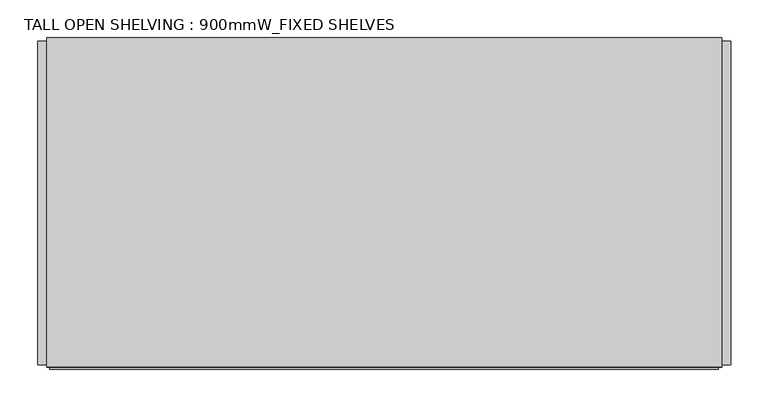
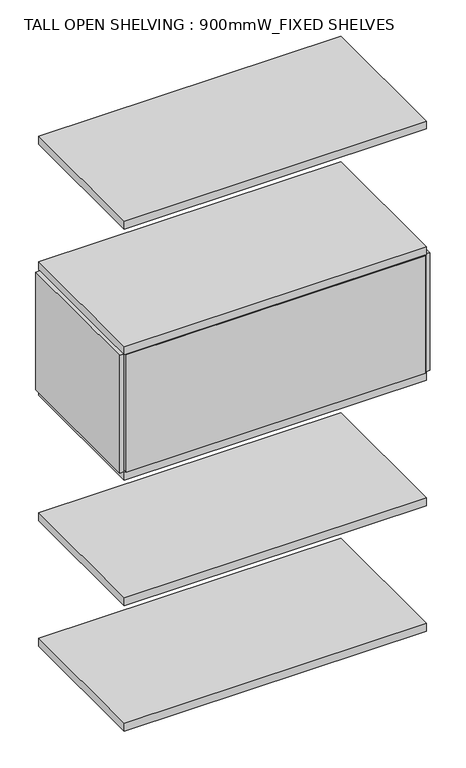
"""IFC4 building model written with IfcOpenShell, lengths in millimetres: furniture geometry, TALL OPEN SHELVING : 900mmW_FIXED SHELVES."""

import ifcopenshell
import ifcopenshell.guid

model = None  # the IFC model being written
_history = None  # IfcOwnerHistory: only IFC2X3 demands one
_inside = {}  # id of a spatial element -> (the spatial element, [elements in it])
_under = {}  # id of a project, library or spatial element -> (it, [spatial elements below it])
_declared = {}  # id of a project -> (the project, [libraries it declares])
_typed = {}  # id of a type object -> (the type object, [elements of that type])
_made_of = {}  # id of a material, layer set ... -> (it, [elements and type objects made of it])


def new_model(schema):
    """Start an empty IFC model of exactly this schema.

    Asked for "IFC4X3", IfcOpenShell would pick the latest addendum, in which some entities
    have other attributes; the version numbers below select the first issue.
    IFC2X3 requires an IfcOwnerHistory on every rooted entity: one is made here for all.
    """
    global model, _history
    if schema == "IFC4X3":
        model = ifcopenshell.file(schema_version=(4, 3, 0, 0))
    else:
        model = ifcopenshell.file(schema=schema)
    _inside.clear()
    _under.clear()
    _declared.clear()
    _typed.clear()
    _made_of.clear()
    _history = None
    if model.schema == "IFC2X3":
        org = make("IfcOrganization", Name="unknown")
        user = make(
            "IfcPersonAndOrganization",
            ThePerson=make("IfcPerson", FamilyName="unknown"),
            TheOrganization=org,
        )
        app = make(
            "IfcApplication",
            ApplicationDeveloper=org,
            Version="unknown",
            ApplicationFullName="unknown",
            ApplicationIdentifier="unknown",
        )
        _history = make(
            "IfcOwnerHistory",
            OwningUser=user,
            OwningApplication=app,
            ChangeAction="ADDED",
            CreationDate=0,
        )
    return model


def make(cls, **values):
    """One entity of the class cls with the attributes given. An attribute that is None is left unset."""
    return model.create_entity(
        cls, **{name: value for name, value in values.items() if value is not None}
    )


def rooted(cls, **values):
    """An entity with a GlobalId (a new one), such as an element, a storey or a relation."""
    return make(cls, GlobalId=ifcopenshell.guid.new(), OwnerHistory=_history, **values)


def si_unit(unit_type, name, prefix=None):
    """IfcSIUnit, for example si_unit("LENGTHUNIT", "METRE", prefix="MILLI")."""
    return make("IfcSIUnit", UnitType=unit_type, Prefix=prefix, Name=name)


def assignment(units):
    """IfcUnitAssignment: the units of a project."""
    return None if units is None else make("IfcUnitAssignment", Units=units)


def point(xyz):
    """IfcCartesianPoint."""
    return None if xyz is None else make("IfcCartesianPoint", Coordinates=xyz)


def direction(xyz):
    """IfcDirection."""
    return None if xyz is None else make("IfcDirection", DirectionRatios=xyz)


def frame(location, z_axis=None, x_axis=None):
    """IfcAxis2Placement3D, a coordinate frame: its origin and axes. An axis left out is left unset."""
    return make(
        "IfcAxis2Placement3D",
        Location=point(location),
        Axis=direction(z_axis),
        RefDirection=direction(x_axis),
    )


def origin():
    """The frame at (0, 0, 0) with its axes left unset."""
    return frame((0.0, 0.0, 0.0))


def place(relative_to, where):
    """IfcLocalPlacement: puts the frame where relative to a parent placement (None: the world)."""
    return make(
        "IfcLocalPlacement", PlacementRelTo=relative_to, RelativePlacement=where
    )


def context(
    kind, dimensions, precision=None, world=None, true_north=None, identifier=None
):
    """IfcGeometricRepresentationContext, for example the 3D "Model" context."""
    return make(
        "IfcGeometricRepresentationContext",
        ContextIdentifier=identifier,
        ContextType=kind,
        CoordinateSpaceDimension=dimensions,
        Precision=precision,
        WorldCoordinateSystem=world,
        TrueNorth=true_north,
    )


def project(units=None, contexts=None):
    """IfcProject with its units and contexts."""
    return rooted(
        "IfcProject",
        Name="project",
        RepresentationContexts=contexts,
        UnitsInContext=assignment(units),
    )


def spatial(cls, under=None, at=None, **own):
    """A site, building, storey or space (cls), placed at a placement, below another one or the project."""
    s = rooted(cls, ObjectPlacement=at, **own)
    if under is not None:
        _under.setdefault(under.id(), (under, []))[1].append(s)
    return s


def polyline(points):
    """IfcPolyline through the points."""
    return make("IfcPolyline", Points=[point(p) for p in points])


def outline(outer, holes=None, kind="AREA"):
    """IfcArbitraryClosedProfileDef: a profile drawn as a closed curve; with holes, ...WithVoids."""
    if holes is None:
        return make("IfcArbitraryClosedProfileDef", ProfileType=kind, OuterCurve=outer)
    return make(
        "IfcArbitraryProfileDefWithVoids",
        ProfileType=kind,
        OuterCurve=outer,
        InnerCurves=holes,
    )


def extrude(swept, where, along, depth):
    """IfcExtrudedAreaSolid: the profile swept, set in the frame where, extruded along a direction by depth."""
    return make(
        "IfcExtrudedAreaSolid",
        SweptArea=swept,
        Position=where,
        ExtrudedDirection=direction(along),
        Depth=depth,
    )


def shape(context_of_items, identifier, shape_type, items):
    """IfcShapeRepresentation: the items that make up one representation, for example the "Body"."""
    return make(
        "IfcShapeRepresentation",
        ContextOfItems=context_of_items,
        RepresentationIdentifier=identifier,
        RepresentationType=shape_type,
        Items=items,
    )


def source(mapping_origin, context_of_items, identifier, shape_type, items):
    """IfcRepresentationMap: a shape defined once, which mapped items show again and again."""
    return make(
        "IfcRepresentationMap",
        MappingOrigin=mapping_origin,
        MappedRepresentation=shape(context_of_items, identifier, shape_type, items),
    )


def transform(
    local_origin,
    x_axis=None,
    y_axis=None,
    z_axis=None,
    scale=None,
    scale2=None,
    scale3=None,
    uniform=True,
):
    """IfcCartesianTransformationOperator3D, or its non-uniform kind. x_axis, y_axis, z_axis: its Axis1, 2, 3."""
    if uniform:
        return make(
            "IfcCartesianTransformationOperator3D",
            Axis1=direction(x_axis),
            Axis2=direction(y_axis),
            LocalOrigin=point(local_origin),
            Scale=scale,
            Axis3=direction(z_axis),
        )
    return make(
        "IfcCartesianTransformationOperator3DnonUniform",
        Axis1=direction(x_axis),
        Axis2=direction(y_axis),
        LocalOrigin=point(local_origin),
        Scale=scale,
        Axis3=direction(z_axis),
        Scale2=scale2,
        Scale3=scale3,
    )


def mapped(mapping_source, mapping_target):
    """IfcMappedItem: shows the shape of a source again, moved by a transform."""
    return make(
        "IfcMappedItem", MappingSource=mapping_source, MappingTarget=mapping_target
    )


def made_of(thing, what):
    """Note that an element or type object is made of a material, layer set ...; save() writes the relation."""
    if what is not None:
        _made_of.setdefault(what.id(), (what, []))[1].append(thing)
    return thing


def element(
    cls,
    number,
    at=None,
    inside=None,
    cuts=None,
    type_object=None,
    material=None,
    context=None,
    identifier="Body",
    shape_type=None,
    held_by="IfcProductDefinitionShape",
    body=None,
    shapes=None,
    **own,
):
    """One element of the class cls, such as IfcWall. Its Tag is "e" and its number.

    at: its placement. inside: the storey or other place that contains it. cuts: it is an
    opening in that element (IfcRelVoidsElement). A single representation is given by context,
    identifier, shape_type and body (its items); several are given by shapes. held_by: the class
    of the entity that holds the representations. save() writes the other relations.
    """
    e = rooted(cls, Tag="e%d" % number, ObjectPlacement=at, **own)
    if body is not None:
        shapes = [shape(context, identifier, shape_type, body)]
    if shapes is not None:
        e.Representation = make(held_by, Representations=shapes)
    if inside is not None:
        _inside.setdefault(inside.id(), (inside, []))[1].append(e)
    if cuts is not None:
        rooted(
            "IfcRelVoidsElement", RelatingBuildingElement=cuts, RelatedOpeningElement=e
        )
    if type_object is not None:
        _typed.setdefault(type_object.id(), (type_object, []))[1].append(e)
    return made_of(e, material)


def aggregate(whole, parts):
    """IfcRelAggregates: a whole, such as a stair, and the parts it consists of."""
    return rooted("IfcRelAggregates", RelatingObject=whole, RelatedObjects=parts)


def save(model, path):
    """Write the relations noted so far, then the file.

    IfcRelAggregates (storeys below a building ...), IfcRelContainedInSpatialStructure (elements
    in a storey), IfcRelDefinesByType, IfcRelAssociatesMaterial and IfcRelDeclares: one each for
    every whole, place, type object, material and project.
    """
    for whole, parts in _under.values():
        aggregate(whole, parts)
    for where, things in _inside.values():
        rooted(
            "IfcRelContainedInSpatialStructure",
            RelatedElements=things,
            RelatingStructure=where,
        )
    for kind, things in _typed.values():
        rooted("IfcRelDefinesByType", RelatedObjects=things, RelatingType=kind)
    for what, things in _made_of.values():
        rooted("IfcRelAssociatesMaterial", RelatedObjects=things, RelatingMaterial=what)
    for by, libraries in _declared.values():
        rooted("IfcRelDeclares", RelatingContext=by, RelatedDefinitions=libraries)
    model.write(path)


def tall_open_shelving_900mmw_fixed_shelves_52626c5d(model_context):
    return source(origin(), model_context, "Body", "SweptSolid", [
        extrude(outline(polyline([(462.0, 214.7757931), (462.0, -217.1931665), (450.0, -217.1931665), (450.0, 214.7757931), (462.0, 214.7757931)])), frame((0.0, 0.0, 808.0), z_axis=(0.0, 0.0, 1.0), x_axis=(1.0, 0.0, 0.0)), (0.0, 0.0, 1.0), 370.0),
        extrude(outline(polyline([(450.0, -220.0), (-450.0, -220.0), (-450.0, 220.0), (450.0, 220.0), (450.0, -220.0)])), frame((0.0, 0.0, -7.0), z_axis=(0.0, 0.0, 1.0), x_axis=(1.0, 0.0, 0.0)), (0.0, 0.0, 1.0), 25.0),
        extrude(outline(polyline([(450.0, -220.0), (-450.0, -220.0), (-450.0, 220.0), (450.0, 220.0), (450.0, -220.0)])), frame((0.0, 0.0, 388.0), z_axis=(0.0, 0.0, 1.0), x_axis=(1.0, 0.0, 0.0)), (0.0, 0.0, 1.0), 25.0),
        extrude(outline(polyline([(450.0, -220.0), (-450.0, -220.0), (-450.0, 220.0), (450.0, 220.0), (450.0, -220.0)])), frame((0.0, 0.0, 783.0), z_axis=(0.0, 0.0, 1.0), x_axis=(1.0, 0.0, 0.0)), (0.0, 0.0, 1.0), 25.0),
        extrude(outline(polyline([(450.0, -220.0), (-450.0, -220.0), (-450.0, 220.0), (450.0, 220.0), (450.0, -220.0)])), frame((0.0, 0.0, 1178.0), z_axis=(0.0, 0.0, 1.0), x_axis=(1.0, 0.0, 0.0)), (0.0, 0.0, 1.0), 25.0),
        extrude(outline(polyline([(450.0, -220.0), (-450.0, -220.0), (-450.0, 220.0), (450.0, 220.0), (450.0, -220.0)])), frame((0.0, 0.0, 1573.0), z_axis=(0.0, 0.0, 1.0), x_axis=(1.0, 0.0, 0.0)), (0.0, 0.0, 1.0), 25.0),
        extrude(outline(polyline([(-450.0, 214.7757931), (-450.0, -217.1931665), (-462.0, -217.1931665), (-462.0, 214.7757931), (-450.0, 214.7757931)])), frame((0.0, 0.0, 808.0), z_axis=(0.0, 0.0, 1.0), x_axis=(1.0, 0.0, 0.0)), (0.0, 0.0, 1.0), 370.0),
        extrude(outline(polyline([(445.4939356, -222.7282814), (-445.4939356, -222.7282814), (-445.4939356, -210.7282814), (445.4939356, -210.7282814), (445.4939356, -222.7282814)])), frame((0.0, 0.0, 808.0), z_axis=(0.0, 0.0, 1.0), x_axis=(1.0, 0.0, 0.0)), (0.0, 0.0, 1.0), 370.0),
    ])


if __name__ == "__main__":
    model = new_model("IFC4")
    model_context = context("Model", 3, world=origin())
    ifc_project = project(units=[si_unit("LENGTHUNIT", "METRE", prefix="MILLI")], contexts=[model_context])
    site = spatial("IfcSite", under=ifc_project)
    building = spatial("IfcBuilding", under=site)
    placement = place(None, origin())
    tall_open_shelving_900mmw_fixed_shelves_shape = tall_open_shelving_900mmw_fixed_shelves_52626c5d(model_context)
    element("IfcFurniture", 1, ObjectType="TALL OPEN SHELVING : 900mmW_FIXED SHELVES", at=placement, inside=building, context=model_context, shape_type="MappedRepresentation", body=[
        mapped(tall_open_shelving_900mmw_fixed_shelves_shape, transform((0.0, 0.0, 0.0), x_axis=(1.0, 0.0, 0.0), y_axis=(0.0, 1.0, 0.0), z_axis=(0.0, 0.0, 1.0))),
    ])
    save(model, "model.ifc")
